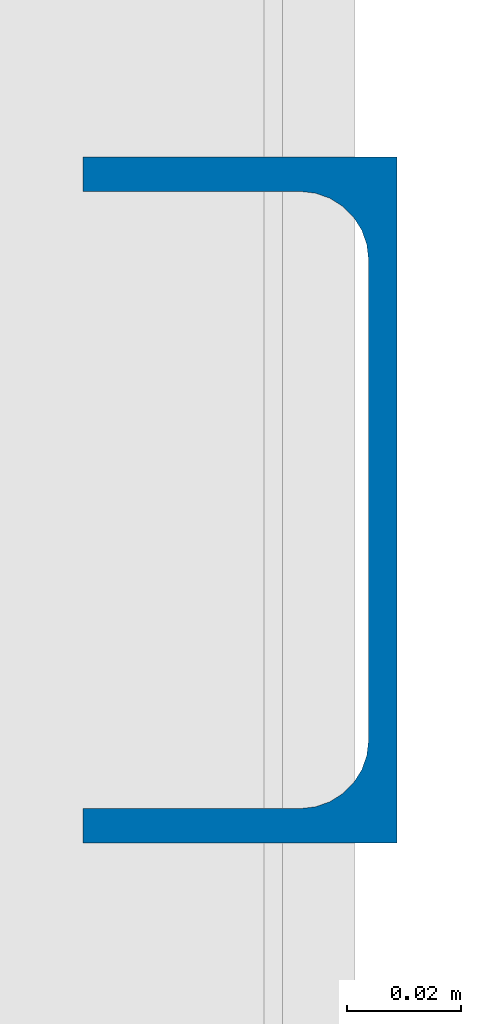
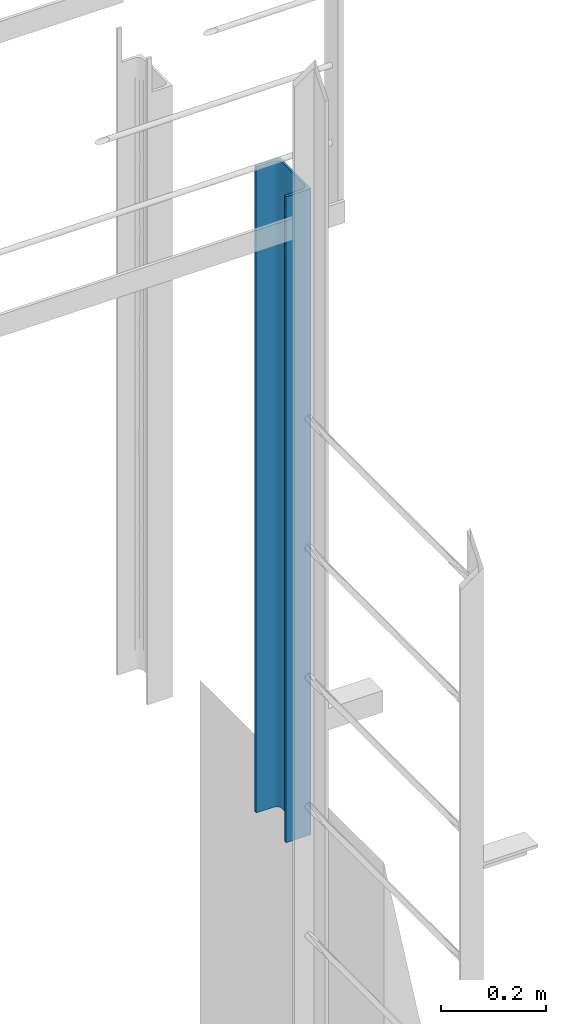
# One storey, part 1 of 10: 1 column.
"""IFC2X3 building model written with IfcOpenShell, lengths in metres."""

from ifc_helpers import new_model, entity, si_unit, converted_unit, derived_unit, direction, frame, frame_2d, origin, place, context, subcontext, project, spatial, polyline, circle_curve, parameter, trimmed, segment, composite_curve, outline, extrude, source, transform, mapped, material, type_object, type_shapes, element, save


model = new_model("IFC2X3")

# Units and contexts
model_context = context("Model", 3, precision=1e-05, world=origin(), true_north=direction((6.12303176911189e-17, 1.0)))
body_context = subcontext(model_context, "Body", "Model", "MODEL_VIEW")
ifc_project = project(units=[si_unit("LENGTHUNIT", "METRE"), si_unit("AREAUNIT", "SQUARE_METRE"), si_unit("VOLUMEUNIT", "CUBIC_METRE"), converted_unit("PLANEANGLEUNIT", "DEGREE", entity("IfcRatioMeasure", 0.0174532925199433), si_unit("PLANEANGLEUNIT", "RADIAN"), dimensions=[0, 0, 0, 0, 0, 0, 0]), si_unit("MASSUNIT", "GRAM", prefix="KILO"), derived_unit("MASSDENSITYUNIT", [(si_unit("MASSUNIT", "GRAM", prefix="KILO"), 1), (si_unit("LENGTHUNIT", "METRE"), -3)]), derived_unit("MOMENTOFINERTIAUNIT", [(si_unit("LENGTHUNIT", "METRE"), 4)]), si_unit("TIMEUNIT", "SECOND"), si_unit("FREQUENCYUNIT", "HERTZ"), si_unit("THERMODYNAMICTEMPERATUREUNIT", "DEGREE_CELSIUS"), derived_unit("THERMALTRANSMITTANCEUNIT", [(si_unit("MASSUNIT", "GRAM", prefix="KILO"), 1), (si_unit("THERMODYNAMICTEMPERATUREUNIT", "KELVIN"), -1), (si_unit("TIMEUNIT", "SECOND"), -3)]), derived_unit("VOLUMETRICFLOWRATEUNIT", [(si_unit("LENGTHUNIT", "METRE"), 3), (si_unit("TIMEUNIT", "SECOND"), -1)]), si_unit("ELECTRICCURRENTUNIT", "AMPERE"), si_unit("ELECTRICVOLTAGEUNIT", "VOLT"), si_unit("POWERUNIT", "WATT"), si_unit("FORCEUNIT", "NEWTON", prefix="KILO"), si_unit("ILLUMINANCEUNIT", "LUX"), si_unit("LUMINOUSFLUXUNIT", "LUMEN"), si_unit("LUMINOUSINTENSITYUNIT", "CANDELA"), derived_unit("USERDEFINED", [(si_unit("MASSUNIT", "GRAM", prefix="KILO"), -1), (si_unit("LENGTHUNIT", "METRE"), -2), (si_unit("TIMEUNIT", "SECOND"), 3), (si_unit("LUMINOUSFLUXUNIT", "LUMEN"), 1)]), derived_unit("LINEARVELOCITYUNIT", [(si_unit("LENGTHUNIT", "METRE"), 1), (si_unit("TIMEUNIT", "SECOND"), -1)]), si_unit("PRESSUREUNIT", "PASCAL"), derived_unit("USERDEFINED", [(si_unit("LENGTHUNIT", "METRE"), -2), (si_unit("MASSUNIT", "GRAM", prefix="KILO"), 1), (si_unit("TIMEUNIT", "SECOND"), -2)]), derived_unit("LINEARFORCEUNIT", [(si_unit("MASSUNIT", "GRAM", prefix="KILO"), 1), (si_unit("LENGTHUNIT", "METRE"), 1), (si_unit("TIMEUNIT", "SECOND"), -2), (si_unit("LENGTHUNIT", "METRE"), -1)]), derived_unit("PLANARFORCEUNIT", [(si_unit("MASSUNIT", "GRAM", prefix="KILO"), 1), (si_unit("LENGTHUNIT", "METRE"), 1), (si_unit("TIMEUNIT", "SECOND"), -2), (si_unit("LENGTHUNIT", "METRE"), -2)])], contexts=[model_context])

# Site, building, storey
site_placement = place(None, origin())
site = spatial("IfcSite", under=ifc_project, at=site_placement, Name="Superficie", CompositionType="ELEMENT")
building_placement = place(site_placement, origin())
building = spatial("IfcBuilding", under=site, at=building_placement, Name="Telegestiones", CompositionType="ELEMENT")
storey_placement = place(building_placement, frame((0.0, 0.0, 13.23)))
storey = spatial("IfcBuildingStorey", under=building, at=storey_placement, Name="Nivel 3_SUP", CompositionType="ELEMENT", Elevation=13.23)

# Column
ifc_material = material(Name="Metal - Acero - 345 MPa")
column_type = type_object("IfcColumnType", Name="UPE - Canales de ala paralela - Pilar:UPE 120", PredefinedType="COLUMN", material=ifc_material)
shared_shape = source(origin(), body_context, "Body", "SweptSolid", [
    extrude(outline(composite_curve([segment(polyline([(0.054000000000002, -0.0286000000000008), (0.0600000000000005, -0.0286000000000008)]), True, "CONTINUOUS"), segment(polyline([(0.0600000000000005, -0.0286000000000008), (0.0600000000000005, 0.0264000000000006)]), True, "CONTINUOUS"), segment(polyline([(0.0600000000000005, 0.0264000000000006), (-0.0600000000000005, 0.0264000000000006)]), True, "CONTINUOUS"), segment(polyline([(-0.0599999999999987, 0.0264000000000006), (-0.0599999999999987, -0.0286000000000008)]), True, "CONTINUOUS"), segment(polyline([(-0.0599999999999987, -0.0286000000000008), (-0.0539999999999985, -0.0286000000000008)]), True, "CONTINUOUS"), segment(polyline([(-0.0539999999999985, -0.0286000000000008), (-0.0539999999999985, 0.00939999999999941)]), True, "CONTINUOUS"), segment(trimmed(circle_curve(frame_2d((-0.0419999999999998, 0.00940000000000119), x_axis=(-1.0, 0.0)), 0.0119999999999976), [parameter(269.999999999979)], [parameter(0.0)], True, "PARAMETER"), False, "CONTINUOUS"), segment(polyline([(-0.041999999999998, 0.0213999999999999), (0.0420000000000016, 0.0213999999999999)]), True, "CONTINUOUS"), segment(trimmed(circle_curve(frame_2d((0.0420000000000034, 0.00940000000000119), x_axis=(0.0, 1.0)), 0.0119999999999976), [parameter(269.999999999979)], [parameter(0.0)], True, "PARAMETER"), False, "CONTINUOUS"), segment(polyline([(0.054000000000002, 0.00939999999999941), (0.054000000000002, -0.0286000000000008)]), True, "CONTINUOUS")], self_intersect=False)), frame((14.9384126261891, 12.9757072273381, 16.36), z_axis=(0.0, 0.0, 1.0), x_axis=(0.0, -1.0, 0.0)), (0.0, 0.0, 1.0), 1.5),
])
type_shapes(column_type, [shared_shape])
column_placement = place(storey_placement, frame((0.0, 0.0, -13.23)))
element("IfcColumn", 1, at=column_placement, inside=storey, type_object=column_type, Name="UPE - Canales de ala paralela - Pilar:UPE 120", ObjectType="UPE - Canales de ala paralela - Pilar:UPE 120", context=body_context, shape_type="MappedRepresentation", body=[
    mapped(shared_shape, transform((0.0, 0.0, 0.0), scale=1.0)),
])

save(model, "model.ifc")
